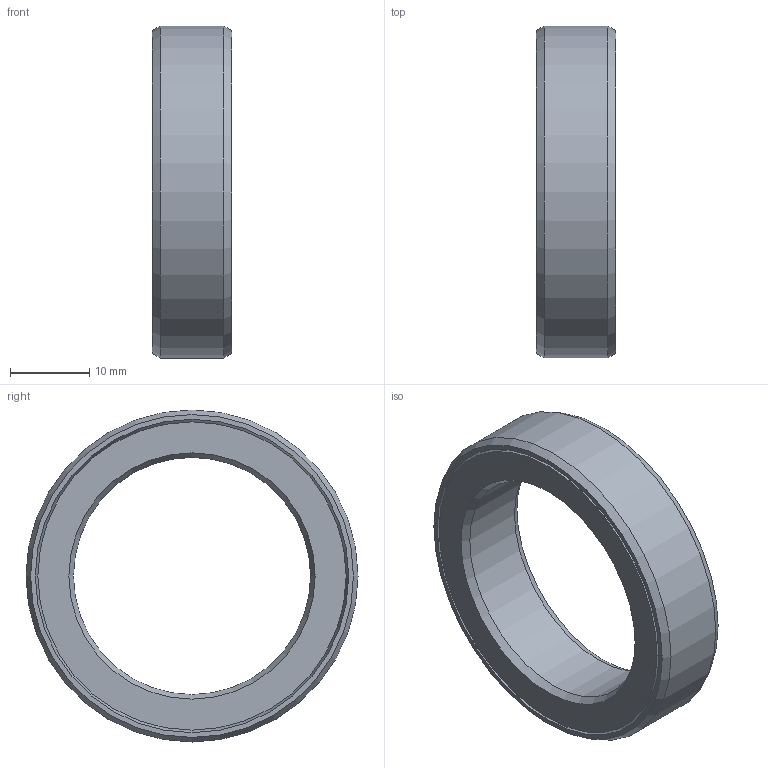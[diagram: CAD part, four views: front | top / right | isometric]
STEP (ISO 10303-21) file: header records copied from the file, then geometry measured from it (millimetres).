
FILE_DESCRIPTION(/* description */ (''),/* implementation_level */ '2;1');
FILE_NAME(/* name */ '301189 L 30x42x10.stp',/* time_stamp */ '2016-12-15T09:13:31+01:00',/* author */ (''),/* organization */ (''),/* preprocessor_version */ 'ST-DEVELOPER v15',/* originating_system */ 'SIEMENS PLM Software NX 8.5',/* authorisation */ '');
FILE_SCHEMA (('CONFIG_CONTROL_DESIGN'));
Length unit declared in the file: millimetre
Products named in the file (1): ATE0000122_01
Bounding box: 10 x 42 x 42 mm (x, y, z)
Volume: 6234.5 mm3; surface area: 6154.1 mm2
Topology: 2 solids, 2 shells, 18 faces, 34 edges, 20 vertices
Faces by surface type: cone 12, plane 4, cylinder 2
Full cylindrical faces by diameter (mm): 30 x1, 42 x1
Entity records: 454 total; most frequent: DIRECTION 74, CARTESIAN_POINT 55, AXIS2_PLACEMENT_3D 37, FACE_BOUND 36, EDGE_LOOP 36, ORIENTED_EDGE 36, ADVANCED_FACE 18, VERTEX_POINT 18
